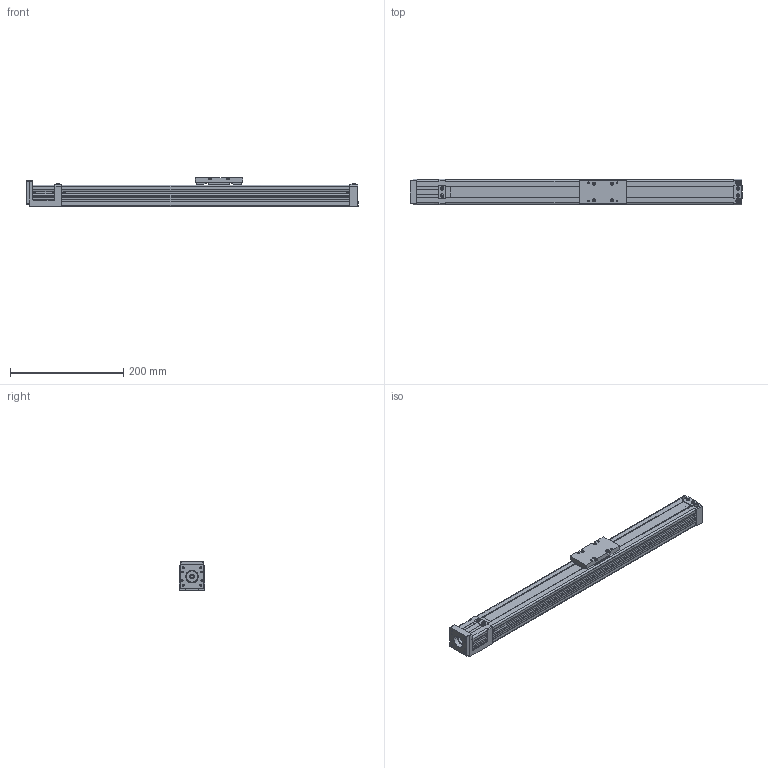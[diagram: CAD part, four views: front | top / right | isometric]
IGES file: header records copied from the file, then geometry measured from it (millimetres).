
Global section: file name: No Iges File Name specified; native system: AutoDesk Inventor R10; preprocessor: AutoDesk Inventor Iges Exporter R10; author: No Author specified; organization: No Organization specified; date: 20110617.144929; units: millimetre
Bounding box: 586 x 45 x 50 mm (x, y, z)
Surface area: 232059 mm2 (no closed solid volume)
Topology: 0 solids, 0 shells, 821 faces, 5454 edges, 5434 vertices
Faces by surface type: bspline 821
